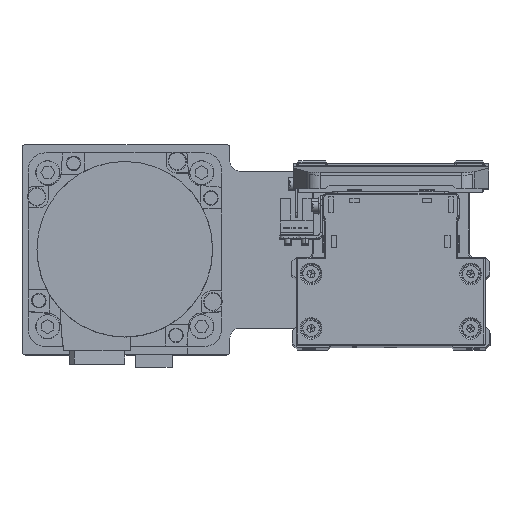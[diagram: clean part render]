
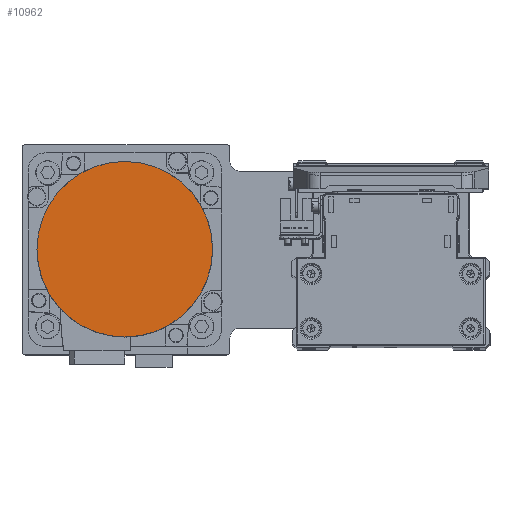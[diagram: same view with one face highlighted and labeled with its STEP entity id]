
A CAD part, top view. The second image highlights one B-rep face of the part: STEP entity #10962.
In plain terms, the highlighted planar face has unit normal (0, 0, 1) as drawn and (0, 0, -1) by its records, which use the part's own axes.
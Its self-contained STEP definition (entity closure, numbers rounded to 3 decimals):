
#579 = VERTEX_POINT ( 'NONE', #2199 ) ;
#2199 = CARTESIAN_POINT ( 'NONE',  ( 0., 36.3, -122.2 ) ) ;
#2602 = EDGE_LOOP ( 'NONE', ( #35892, #33220 ) ) ;
#3377 = AXIS2_PLACEMENT_3D ( 'NONE', #22574, #34733, #7437 ) ;
#4252 = CARTESIAN_POINT ( 'NONE',  ( 0., 0., -122.2 ) ) ;
#7437 = DIRECTION ( 'NONE',  ( 0., 1., 0. ) ) ;
#7539 = DIRECTION ( 'NONE',  ( 0., 0., 1. ) ) ;
#10897 = CIRCLE ( 'NONE', #33182, 36.3 ) ;
#10962 = ADVANCED_FACE ( 'NONE', ( #19403 ), #31561, .F. ) ;
#11032 = CARTESIAN_POINT ( 'NONE',  ( 0., -36.3, -122.2 ) ) ;
#14389 = AXIS2_PLACEMENT_3D ( 'NONE', #4252, #16409, #28563 ) ;
#16409 = DIRECTION ( 'NONE',  ( 0., 0., 1. ) ) ;
#19403 = FACE_OUTER_BOUND ( 'NONE', #2602, .T. ) ;
#19686 = DIRECTION ( 'NONE',  ( 0., -1., 0. ) ) ;
#20351 = EDGE_CURVE ( 'NONE', #579, #31904, #20551, .T. ) ;
#20551 = CIRCLE ( 'NONE', #3377, 36.3 ) ;
#22574 = CARTESIAN_POINT ( 'NONE',  ( 0., 0., -122.2 ) ) ;
#28563 = DIRECTION ( 'NONE',  ( 1., 0., 0. ) ) ;
#31561 = PLANE ( 'NONE',  #14389 ) ;
#31904 = VERTEX_POINT ( 'NONE', #11032 ) ;
#33182 = AXIS2_PLACEMENT_3D ( 'NONE', #34827, #7539, #19686 ) ;
#33220 = ORIENTED_EDGE ( 'NONE', *, *, #36086, .F. ) ;
#34733 = DIRECTION ( 'NONE',  ( 0., 0., 1. ) ) ;
#34827 = CARTESIAN_POINT ( 'NONE',  ( 0., 0., -122.2 ) ) ;
#35892 = ORIENTED_EDGE ( 'NONE', *, *, #20351, .F. ) ;
#36086 = EDGE_CURVE ( 'NONE', #31904, #579, #10897, .T. ) ;
